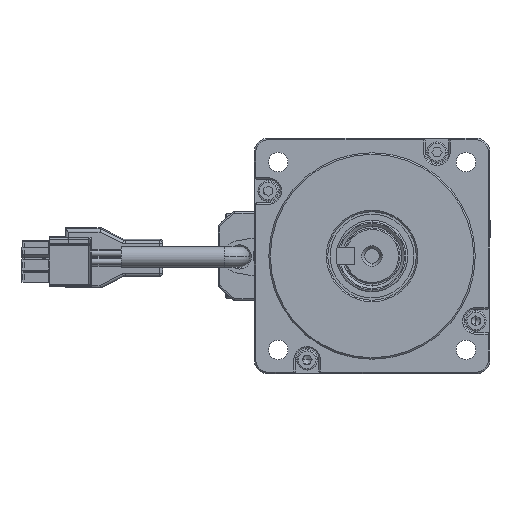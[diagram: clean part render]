
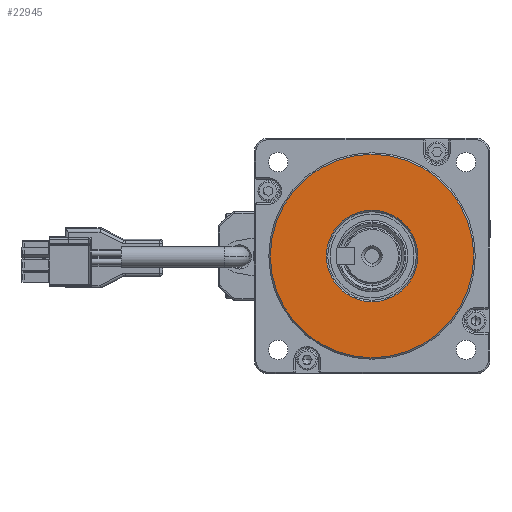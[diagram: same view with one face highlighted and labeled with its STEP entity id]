
A CAD part, left-side view. The second image highlights one B-rep face of the part: STEP entity #22945.
In plain terms, the highlighted planar face has unit normal (-1, 0, 0).
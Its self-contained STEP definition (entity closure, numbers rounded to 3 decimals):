
#426 = DIRECTION ( 'NONE',  ( 1., 0., 0. ) ) ;
#2693 = CIRCLE ( 'NONE', #4675, 34.5 ) ;
#3511 = ORIENTED_EDGE ( 'NONE', *, *, #22526, .T. ) ;
#4225 = EDGE_CURVE ( 'NONE', #14035, #32661, #2693, .T. ) ;
#4314 = ORIENTED_EDGE ( 'NONE', *, *, #4225, .T. ) ;
#4675 = AXIS2_PLACEMENT_3D ( 'NONE', #33545, #33091, #32787 ) ;
#6097 = EDGE_CURVE ( 'NONE', #8778, #11978, #27108, .T. ) ;
#7437 = AXIS2_PLACEMENT_3D ( 'NONE', #17154, #17103, #16946 ) ;
#8778 = VERTEX_POINT ( 'NONE', #23412 ) ;
#11978 = VERTEX_POINT ( 'NONE', #28945 ) ;
#14035 = VERTEX_POINT ( 'NONE', #31776 ) ;
#16946 = DIRECTION ( 'NONE',  ( 0., 0., 1. ) ) ;
#17103 = DIRECTION ( 'NONE',  ( -1., 0., 0. ) ) ;
#17154 = CARTESIAN_POINT ( 'NONE',  ( -3., 0., 0. ) ) ;
#21326 = CARTESIAN_POINT ( 'NONE',  ( -3., 0., 0. ) ) ;
#21368 = DIRECTION ( 'NONE',  ( 0., 0., 1. ) ) ;
#21519 = DIRECTION ( 'NONE',  ( 1., 0., 0. ) ) ;
#22525 = DIRECTION ( 'NONE',  ( 0., 0., 1. ) ) ;
#22526 = EDGE_CURVE ( 'NONE', #11978, #8778, #33456, .T. ) ;
#22579 = DIRECTION ( 'NONE',  ( -1., 0., 0. ) ) ;
#22945 = ADVANCED_FACE ( 'NONE', ( #38102, #38463 ), #25602, .T. ) ;
#23074 = EDGE_CURVE ( 'NONE', #32661, #14035, #40275, .T. ) ;
#23412 = CARTESIAN_POINT ( 'NONE',  ( -3., 0., 15.5 ) ) ;
#25469 = CARTESIAN_POINT ( 'NONE',  ( -3., 0., 0. ) ) ;
#25602 = PLANE ( 'NONE',  #39135 ) ;
#26298 = ORIENTED_EDGE ( 'NONE', *, *, #6097, .T. ) ;
#26465 = AXIS2_PLACEMENT_3D ( 'NONE', #40911, #426, #42661 ) ;
#27108 = CIRCLE ( 'NONE', #32693, 15.5 ) ;
#28669 = EDGE_LOOP ( 'NONE', ( #39660, #4314 ) ) ;
#28945 = CARTESIAN_POINT ( 'NONE',  ( -3., 0., -15.5 ) ) ;
#31776 = CARTESIAN_POINT ( 'NONE',  ( -3., 0., 34.5 ) ) ;
#32661 = VERTEX_POINT ( 'NONE', #41545 ) ;
#32693 = AXIS2_PLACEMENT_3D ( 'NONE', #21326, #21519, #21368 ) ;
#32787 = DIRECTION ( 'NONE',  ( 0., 0., 1. ) ) ;
#33091 = DIRECTION ( 'NONE',  ( -1., 0., 0. ) ) ;
#33456 = CIRCLE ( 'NONE', #26465, 15.5 ) ;
#33545 = CARTESIAN_POINT ( 'NONE',  ( -3., 0., 0. ) ) ;
#35688 = EDGE_LOOP ( 'NONE', ( #26298, #3511 ) ) ;
#38102 = FACE_BOUND ( 'NONE', #35688, .T. ) ;
#38463 = FACE_OUTER_BOUND ( 'NONE', #28669, .T. ) ;
#39135 = AXIS2_PLACEMENT_3D ( 'NONE', #25469, #22579, #22525 ) ;
#39660 = ORIENTED_EDGE ( 'NONE', *, *, #23074, .T. ) ;
#40275 = CIRCLE ( 'NONE', #7437, 34.5 ) ;
#40911 = CARTESIAN_POINT ( 'NONE',  ( -3., 0., 0. ) ) ;
#41545 = CARTESIAN_POINT ( 'NONE',  ( -3., 0., -34.5 ) ) ;
#42661 = DIRECTION ( 'NONE',  ( 0., 0., 1. ) ) ;
